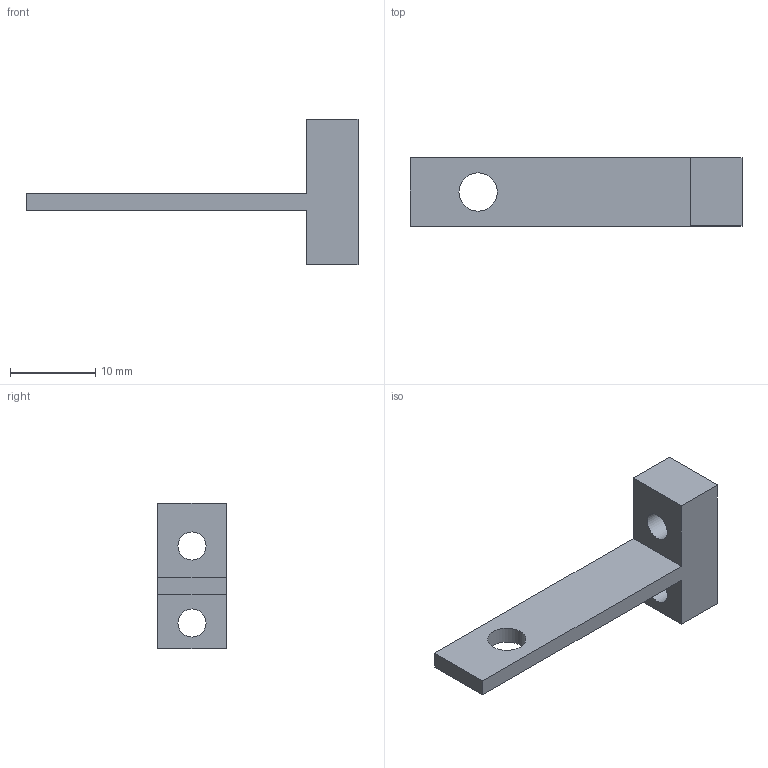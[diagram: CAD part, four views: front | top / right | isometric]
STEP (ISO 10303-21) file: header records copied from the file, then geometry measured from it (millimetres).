
FILE_DESCRIPTION(('FreeCAD Model'),'2;1');
FILE_NAME('Open CASCADE Shape Model','2026-10-30T14:44:40',('FreeCAD'),( 'FreeCAD'),'Open CASCADE STEP processor 7.8','FreeCAD','Unknown');
FILE_SCHEMA(('AUTOMOTIVE_DESIGN { 1 0 10303 214 1 1 1 1 }'));
Length unit declared in the file: millimetre
Products named in the file (1): Open CASCADE STEP translator 7.8 1
Bounding box: 39 x 8 x 17.05 mm (x, y, z)
Volume: 1212 mm3; surface area: 1320.1 mm2
Topology: 1 solids, 1 shells, 13 faces, 33 edges, 22 vertices
Faces by surface type: plane 10, cylinder 3
Full cylindrical faces by diameter (mm): 3.3 x2, 4.5 x1
Entity records: 415 total; most frequent: CARTESIAN_POINT 69, DIRECTION 67, ORIENTED_EDGE 66, EDGE_CURVE 33, LINE 27, VECTOR 27, VERTEX_POINT 22, AXIS2_PLACEMENT_3D 20
